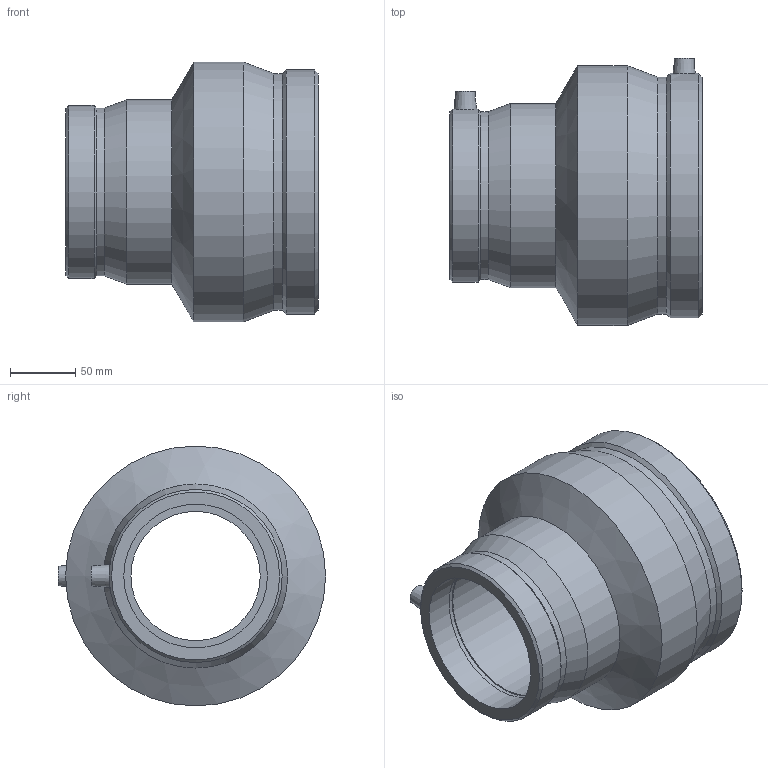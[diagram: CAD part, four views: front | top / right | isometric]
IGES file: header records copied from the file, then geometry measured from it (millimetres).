
Global section: file name: 491104160110.ipt; native system: Autodesk Inventor 2015; preprocessor: unknown; author: KIM; date: 20171106.093741; units: millimetre
Bounding box: 193 x 204.5 x 199 mm (x, y, z)
Volume: 1436559.4 mm3; surface area: 218123 mm2
Topology: 1 solids, 1 shells, 39 faces, 87 edges, 58 vertices
Faces by surface type: plane 12, revolution 10, cone 9, cylinder 8
Full cylindrical faces by diameter (mm): 4 x2, 128.564 x1, 132.54 x1, 141 x1, 181.448 x1, 187.06 x1, 199 x1
